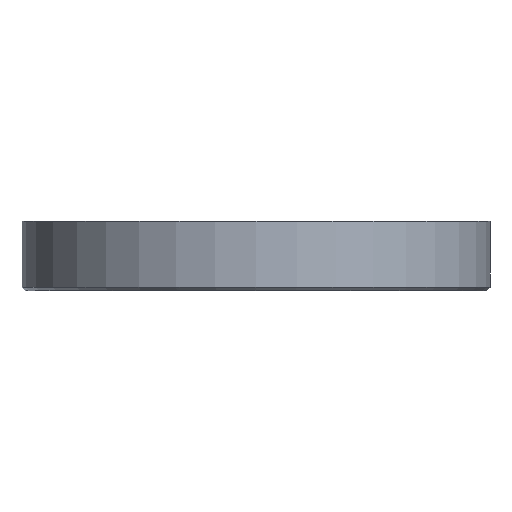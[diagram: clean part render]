
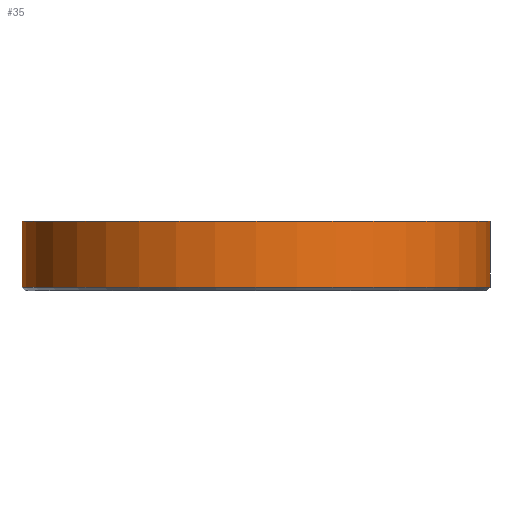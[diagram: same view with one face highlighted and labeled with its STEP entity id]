
A CAD part, front view. The second image highlights one B-rep face of the part: STEP entity #35.
In plain terms, the highlighted cylindrical face has radius 33 mm (diameter 66 mm), a full revolution.
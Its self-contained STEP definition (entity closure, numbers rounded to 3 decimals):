
#35 = ADVANCED_FACE('',(#36),#49,.T.);
#36 = FACE_BOUND('',#37,.F.);
#37 = EDGE_LOOP('',(#38,#76,#99,#126));
#38 = ORIENTED_EDGE('',*,*,#39,.T.);
#39 = EDGE_CURVE('',#40,#40,#42,.T.);
#40 = VERTEX_POINT('',#41);
#41 = CARTESIAN_POINT('',(33.,-5.,9.8));
#42 = SURFACE_CURVE('',#43,(#48,#60),.PCURVE_S1.);
#43 = CIRCLE('',#44,33.);
#44 = AXIS2_PLACEMENT_3D('',#45,#46,#47);
#45 = CARTESIAN_POINT('',(0.,-5.,9.8));
#46 = DIRECTION('',(-0.,0.,1.));
#47 = DIRECTION('',(1.,0.,0.));
#48 = PCURVE('',#49,#54);
#49 = CYLINDRICAL_SURFACE('',#50,33.);
#50 = AXIS2_PLACEMENT_3D('',#51,#52,#53);
#51 = CARTESIAN_POINT('',(0.,-5.,12.2));
#52 = DIRECTION('',(-0.,0.,1.));
#53 = DIRECTION('',(1.,0.,0.));
#54 = DEFINITIONAL_REPRESENTATION('',(#55),#59);
#55 = LINE('',#56,#57);
#56 = CARTESIAN_POINT('',(-6.283,-2.4));
#57 = VECTOR('',#58,1.);
#58 = DIRECTION('',(1.,-0.));
#59 = ( GEOMETRIC_REPRESENTATION_CONTEXT(2) 
PARAMETRIC_REPRESENTATION_CONTEXT() REPRESENTATION_CONTEXT('2D SPACE',''
  ) );
#60 = PCURVE('',#61,#66);
#61 = PLANE('',#62);
#62 = AXIS2_PLACEMENT_3D('',#63,#64,#65);
#63 = CARTESIAN_POINT('',(-100.,100.,9.8));
#64 = DIRECTION('',(0.,0.,-1.));
#65 = DIRECTION('',(1.,0.,0.));
#66 = DEFINITIONAL_REPRESENTATION('',(#67),#75);
#67 = ( BOUNDED_CURVE() B_SPLINE_CURVE(2,(#68,#69,#70,#71,#72,#73,#74),
.UNSPECIFIED.,.T.,.F.) B_SPLINE_CURVE_WITH_KNOTS((1,2,2,2,2,1),(
    -2.094,0.,2.094,4.189,6.283,
8.378),.UNSPECIFIED.) CURVE() GEOMETRIC_REPRESENTATION_ITEM() 
RATIONAL_B_SPLINE_CURVE((1.,0.5,1.,0.5,1.,0.5,1.)) REPRESENTATION_ITEM(
  '') );
#68 = CARTESIAN_POINT('',(133.,105.));
#69 = CARTESIAN_POINT('',(133.,47.842));
#70 = CARTESIAN_POINT('',(83.5,76.421));
#71 = CARTESIAN_POINT('',(34.,105.));
#72 = CARTESIAN_POINT('',(83.5,133.579));
#73 = CARTESIAN_POINT('',(133.,162.158));
#74 = CARTESIAN_POINT('',(133.,105.));
#75 = ( GEOMETRIC_REPRESENTATION_CONTEXT(2) 
PARAMETRIC_REPRESENTATION_CONTEXT() REPRESENTATION_CONTEXT('2D SPACE',''
  ) );
#76 = ORIENTED_EDGE('',*,*,#77,.T.);
#77 = EDGE_CURVE('',#40,#78,#80,.T.);
#78 = VERTEX_POINT('',#79);
#79 = CARTESIAN_POINT('',(33.,-5.,0.5));
#80 = SEAM_CURVE('',#81,(#85,#92),.PCURVE_S1.);
#81 = LINE('',#82,#83);
#82 = CARTESIAN_POINT('',(33.,-5.,12.2));
#83 = VECTOR('',#84,1.);
#84 = DIRECTION('',(0.,0.,-1.));
#85 = PCURVE('',#49,#86);
#86 = DEFINITIONAL_REPRESENTATION('',(#87),#91);
#87 = LINE('',#88,#89);
#88 = CARTESIAN_POINT('',(-6.283,0.));
#89 = VECTOR('',#90,1.);
#90 = DIRECTION('',(-0.,-1.));
#91 = ( GEOMETRIC_REPRESENTATION_CONTEXT(2) 
PARAMETRIC_REPRESENTATION_CONTEXT() REPRESENTATION_CONTEXT('2D SPACE',''
  ) );
#92 = PCURVE('',#49,#93);
#93 = DEFINITIONAL_REPRESENTATION('',(#94),#98);
#94 = LINE('',#95,#96);
#95 = CARTESIAN_POINT('',(-0.,0.));
#96 = VECTOR('',#97,1.);
#97 = DIRECTION('',(-0.,-1.));
#98 = ( GEOMETRIC_REPRESENTATION_CONTEXT(2) 
PARAMETRIC_REPRESENTATION_CONTEXT() REPRESENTATION_CONTEXT('2D SPACE',''
  ) );
#99 = ORIENTED_EDGE('',*,*,#100,.T.);
#100 = EDGE_CURVE('',#78,#78,#101,.T.);
#101 = SURFACE_CURVE('',#102,(#107,#114),.PCURVE_S1.);
#102 = CIRCLE('',#103,33.);
#103 = AXIS2_PLACEMENT_3D('',#104,#105,#106);
#104 = CARTESIAN_POINT('',(0.,-5.,0.5));
#105 = DIRECTION('',(0.,0.,-1.));
#106 = DIRECTION('',(1.,0.,0.));
#107 = PCURVE('',#49,#108);
#108 = DEFINITIONAL_REPRESENTATION('',(#109),#113);
#109 = LINE('',#110,#111);
#110 = CARTESIAN_POINT('',(-0.,-11.7));
#111 = VECTOR('',#112,1.);
#112 = DIRECTION('',(-1.,0.));
#113 = ( GEOMETRIC_REPRESENTATION_CONTEXT(2) 
PARAMETRIC_REPRESENTATION_CONTEXT() REPRESENTATION_CONTEXT('2D SPACE',''
  ) );
#114 = PCURVE('',#115,#120);
#115 = CONICAL_SURFACE('',#116,33.,0.785);
#116 = AXIS2_PLACEMENT_3D('',#117,#118,#119);
#117 = CARTESIAN_POINT('',(0.,-5.,0.5));
#118 = DIRECTION('',(-0.,0.,1.));
#119 = DIRECTION('',(1.,0.,0.));
#120 = DEFINITIONAL_REPRESENTATION('',(#121),#125);
#121 = LINE('',#122,#123);
#122 = CARTESIAN_POINT('',(-0.,-0.));
#123 = VECTOR('',#124,1.);
#124 = DIRECTION('',(-1.,-0.));
#125 = ( GEOMETRIC_REPRESENTATION_CONTEXT(2) 
PARAMETRIC_REPRESENTATION_CONTEXT() REPRESENTATION_CONTEXT('2D SPACE',''
  ) );
#126 = ORIENTED_EDGE('',*,*,#77,.F.);
